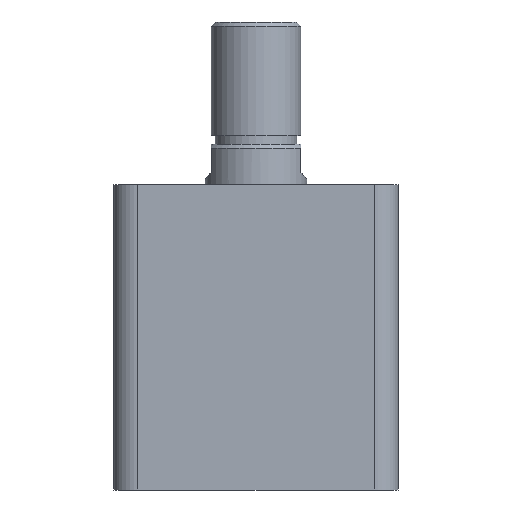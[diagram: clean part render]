
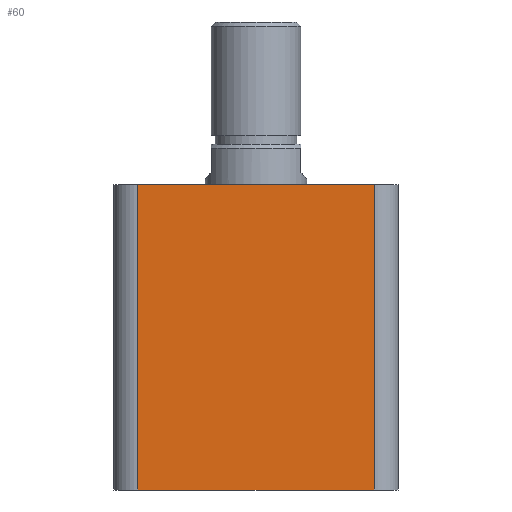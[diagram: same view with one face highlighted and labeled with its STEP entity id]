
A CAD part, front view. The second image highlights one B-rep face of the part: STEP entity #60.
In plain terms, the highlighted planar face has unit normal (0, -1, 0).
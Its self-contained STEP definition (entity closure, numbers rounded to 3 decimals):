
#60 = ADVANCED_FACE ( 'NONE', ( #1655 ), #2157, .F. ) ;
#327 = VECTOR ( 'NONE', #1096, 1000. ) ;
#407 = VECTOR ( 'NONE', #1091, 1000. ) ;
#412 = VECTOR ( 'NONE', #1100, 1000. ) ;
#420 = LINE ( 'NONE', #1101, #412 ) ;
#433 = LINE ( 'NONE', #1099, #482 ) ;
#482 = VECTOR ( 'NONE', #1097, 1000. ) ;
#550 = LINE ( 'NONE', #1116, #327 ) ;
#554 = LINE ( 'NONE', #1092, #407 ) ;
#571 = ORIENTED_EDGE ( 'NONE', *, *, #2001, .T. ) ;
#577 = ORIENTED_EDGE ( 'NONE', *, *, #2000, .T. ) ;
#581 = ORIENTED_EDGE ( 'NONE', *, *, #1999, .F. ) ;
#582 = ORIENTED_EDGE ( 'NONE', *, *, #2008, .T. ) ;
#691 = EDGE_LOOP ( 'NONE', ( #581, #577, #571, #582 ) ) ;
#749 = VERTEX_POINT ( 'NONE', #2284 ) ;
#751 = VERTEX_POINT ( 'NONE', #2282 ) ;
#772 = VERTEX_POINT ( 'NONE', #2253 ) ;
#784 = VERTEX_POINT ( 'NONE', #2235 ) ;
#1091 = DIRECTION ( 'NONE',  ( 0., 0., 1. ) ) ;
#1092 = CARTESIAN_POINT ( 'NONE',  ( 29., -35., 75. ) ) ;
#1096 = DIRECTION ( 'NONE',  ( 1., 0., 0. ) ) ;
#1097 = DIRECTION ( 'NONE',  ( 0., 0., -1. ) ) ;
#1099 = CARTESIAN_POINT ( 'NONE',  ( -29., -35., 75. ) ) ;
#1100 = DIRECTION ( 'NONE',  ( 1., 0., 0. ) ) ;
#1101 = CARTESIAN_POINT ( 'NONE',  ( -35., -35., 75. ) ) ;
#1116 = CARTESIAN_POINT ( 'NONE',  ( -35., -35., 0. ) ) ;
#1294 = AXIS2_PLACEMENT_3D ( 'NONE', #2194, #2156, #2149 ) ;
#1655 = FACE_OUTER_BOUND ( 'NONE', #691, .T. ) ;
#1999 = EDGE_CURVE ( 'NONE', #751, #749, #420, .T. ) ;
#2000 = EDGE_CURVE ( 'NONE', #751, #772, #433, .T. ) ;
#2001 = EDGE_CURVE ( 'NONE', #772, #784, #550, .T. ) ;
#2008 = EDGE_CURVE ( 'NONE', #784, #749, #554, .T. ) ;
#2149 = DIRECTION ( 'NONE',  ( 0., 0., 1. ) ) ;
#2156 = DIRECTION ( 'NONE',  ( 0., 1., 0. ) ) ;
#2157 = PLANE ( 'NONE',  #1294 ) ;
#2194 = CARTESIAN_POINT ( 'NONE',  ( -35., -35., 75. ) ) ;
#2235 = CARTESIAN_POINT ( 'NONE',  ( 29., -35., 0. ) ) ;
#2253 = CARTESIAN_POINT ( 'NONE',  ( -29., -35., 0. ) ) ;
#2282 = CARTESIAN_POINT ( 'NONE',  ( -29., -35., 75. ) ) ;
#2284 = CARTESIAN_POINT ( 'NONE',  ( 29., -35., 75. ) ) ;
